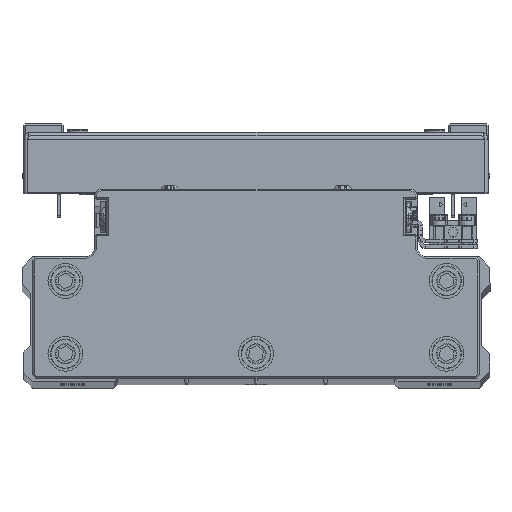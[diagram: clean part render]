
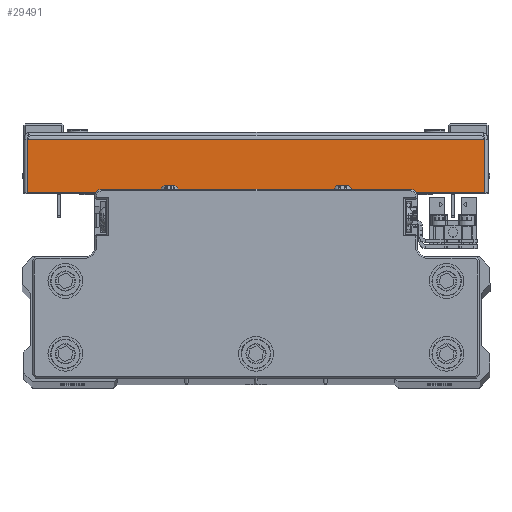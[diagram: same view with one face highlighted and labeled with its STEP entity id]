
A CAD part, top view. The second image highlights one B-rep face of the part: STEP entity #29491.
In plain terms, the highlighted planar face has unit normal (0, 0, 1) as drawn and (1, 0, 0) by its records, which use the part's own axes.
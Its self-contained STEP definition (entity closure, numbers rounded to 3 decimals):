
#103 = CARTESIAN_POINT ( 'NONE',  ( 75., 1., 65.929 ) ) ;
#2279 = ORIENTED_EDGE ( 'NONE', *, *, #32858, .T. ) ;
#4065 = CARTESIAN_POINT ( 'NONE',  ( 75., 16.5, -65.929 ) ) ;
#4814 = VECTOR ( 'NONE', #7186, 1000. ) ;
#5003 = VERTEX_POINT ( 'NONE', #18983 ) ;
#5279 = VECTOR ( 'NONE', #23110, 1000. ) ;
#6494 = CARTESIAN_POINT ( 'NONE',  ( 75., 0., 0. ) ) ;
#7186 = DIRECTION ( 'NONE',  ( 0., 1., 0. ) ) ;
#7285 = EDGE_LOOP ( 'NONE', ( #39323, #2279, #34347, #9265 ) ) ;
#9265 = ORIENTED_EDGE ( 'NONE', *, *, #36676, .F. ) ;
#9500 = CARTESIAN_POINT ( 'NONE',  ( 75., 16.5, 0. ) ) ;
#10811 = VERTEX_POINT ( 'NONE', #103 ) ;
#13211 = CARTESIAN_POINT ( 'NONE',  ( 75., 1., 67. ) ) ;
#14927 = CARTESIAN_POINT ( 'NONE',  ( 75., 1., -65.929 ) ) ;
#15367 = LINE ( 'NONE', #28951, #39567 ) ;
#16053 = EDGE_CURVE ( 'NONE', #39864, #10811, #43735, .T. ) ;
#18307 = VERTEX_POINT ( 'NONE', #4065 ) ;
#18983 = CARTESIAN_POINT ( 'NONE',  ( 75., 16.5, 65.929 ) ) ;
#20118 = DIRECTION ( 'NONE',  ( -1., 0., 0. ) ) ;
#23110 = DIRECTION ( 'NONE',  ( 0., 0., 1. ) ) ;
#23466 = FACE_OUTER_BOUND ( 'NONE', #7285, .T. ) ;
#24155 = LINE ( 'NONE', #37756, #4814 ) ;
#26797 = DIRECTION ( 'NONE',  ( 0., 0., 1. ) ) ;
#28951 = CARTESIAN_POINT ( 'NONE',  ( 75., 0., 65.929 ) ) ;
#29491 = ADVANCED_FACE ( 'NONE', ( #23466 ), #37068, .F. ) ;
#32858 = EDGE_CURVE ( 'NONE', #39864, #18307, #24155, .T. ) ;
#33715 = DIRECTION ( 'NONE',  ( 0., -1., 0. ) ) ;
#34347 = ORIENTED_EDGE ( 'NONE', *, *, #35051, .T. ) ;
#35051 = EDGE_CURVE ( 'NONE', #18307, #5003, #40060, .T. ) ;
#36676 = EDGE_CURVE ( 'NONE', #10811, #5003, #15367, .T. ) ;
#37068 = PLANE ( 'NONE',  #43075 ) ;
#37756 = CARTESIAN_POINT ( 'NONE',  ( 75., 0., -65.929 ) ) ;
#39323 = ORIENTED_EDGE ( 'NONE', *, *, #16053, .F. ) ;
#39567 = VECTOR ( 'NONE', #42549, 1000. ) ;
#39683 = VECTOR ( 'NONE', #26797, 1000. ) ;
#39864 = VERTEX_POINT ( 'NONE', #14927 ) ;
#40060 = LINE ( 'NONE', #9500, #5279 ) ;
#42549 = DIRECTION ( 'NONE',  ( 0., 1., 0. ) ) ;
#43075 = AXIS2_PLACEMENT_3D ( 'NONE', #6494, #20118, #33715 ) ;
#43735 = LINE ( 'NONE', #13211, #39683 ) ;
